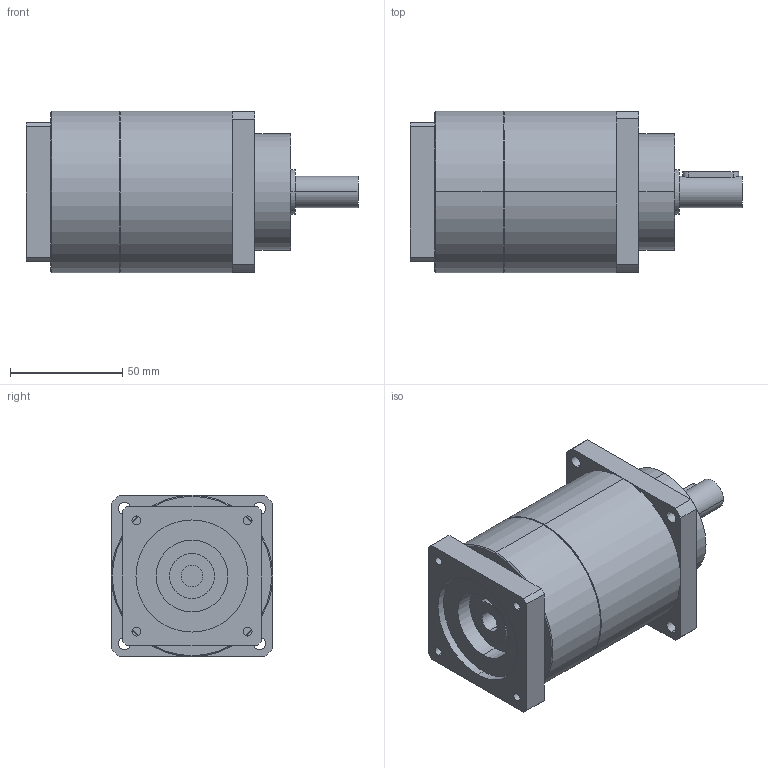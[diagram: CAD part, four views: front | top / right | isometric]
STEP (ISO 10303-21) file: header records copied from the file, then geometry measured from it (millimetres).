
FILE_DESCRIPTION(('CoCreate Modeling STEP Export'),'2;1');
FILE_NAME('GPT75_ig-9-12-16-20-25-28-35-40-50-70-100_14_B5T_9.52_P31.stp','2014-08-27T13:43:27',(''),(''),'CoCreate Modeling STEP processor for AP214 (Solid Model)','CoCreate Modeling 16.00C 25-Feb-2009 (C) Parametric Technology GmbH','');
FILE_SCHEMA(('AUTOMOTIVE_DESIGN { 1 0 10303 214 1 1 1 1 }'));
Length unit declared in the file: millimetre
Products named in the file (2): GPT75_ig-9-12-16-20-25-28-35-40-50-70-100_14_B5T_9.52_P31
Assembly tree (1 placements, depth 2):
  GPT75_ig-9-12-16-20-25-28-35-40-50-70-100_14_B5T_9.52_P31
    GPT75_ig-9-12-16-20-25-28-35-40-50-70-100_14_B5T_9.52_P31
Bounding box: 148 x 72 x 72 mm (x, y, z)
Volume: 446896.5 mm3; surface area: 42597 mm2
Topology: 1 solids, 1 shells, 88 faces, 226 edges, 145 vertices
Faces by surface type: cylinder 46, plane 38, cone 4
Entity records: 2676 total; most frequent: CARTESIAN_POINT 744, ORIENTED_EDGE 452, DIRECTION 334, EDGE_CURVE 226, VERTEX_POINT 145, AXIS2_PLACEMENT_3D 123, EDGE_LOOP 109, VECTOR 88
